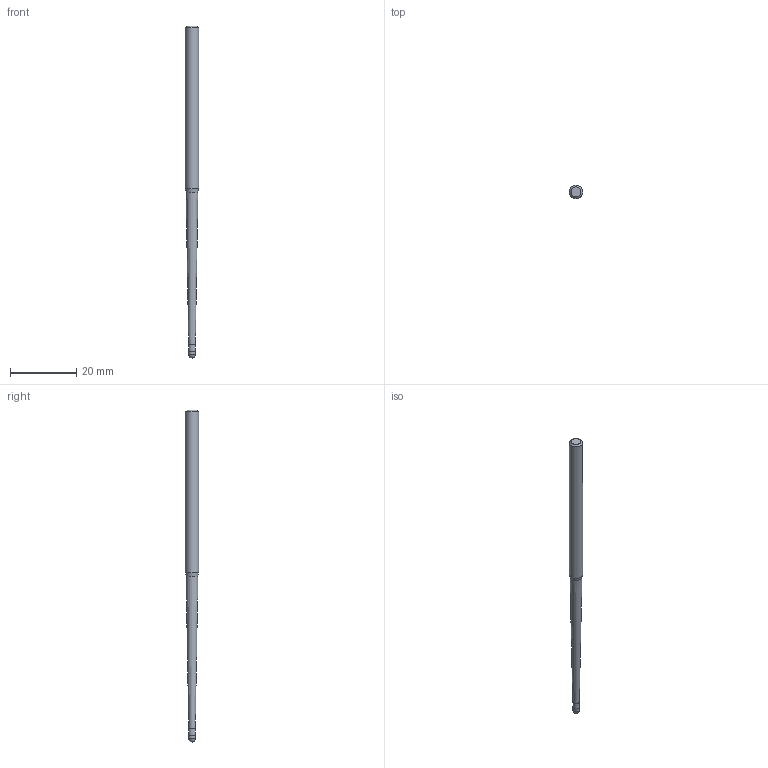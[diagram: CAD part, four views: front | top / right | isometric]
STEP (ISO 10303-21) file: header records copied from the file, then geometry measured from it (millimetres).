
FILE_DESCRIPTION((''),'2;1');
FILE_NAME('C:\Users\nsx150\AppData\Local\Temp\Mastercam 2021\SNAKH10GOD\TEMP.step','2021-10-21T13:33:10',(''),(''),'STEP Write','Mastercam 2021 ... CNC Software, Inc.','');
FILE_SCHEMA(('AUTOMOTIVE_DESIGN'));
Length unit declared in the file: millimetre
Products named in the file (1): None
Bounding box: 4 x 4 x 100 mm (x, y, z)
Volume: 927.9 mm3; surface area: 1072.2 mm2
Topology: 2 solids, 2 shells, 10 faces, 16 edges, 9 vertices
Faces by surface type: plane 3, cylinder 3, cone 3, sphere 1
Full cylindrical faces by diameter (mm): 1.985 x1, 2 x1, 4 x1
Entity records: 232 total; most frequent: DIRECTION 40, CARTESIAN_POINT 28, AXIS2_PLACEMENT_3D 20, ORIENTED_EDGE 16, EDGE_LOOP 16, STYLED_ITEM 13, ADVANCED_FACE 10, FACE_BOUND 9
